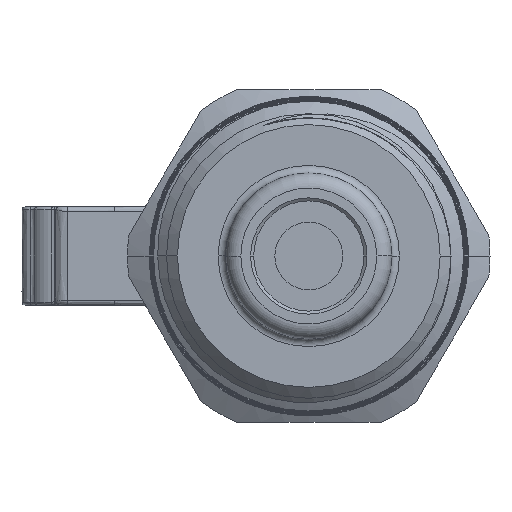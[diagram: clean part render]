
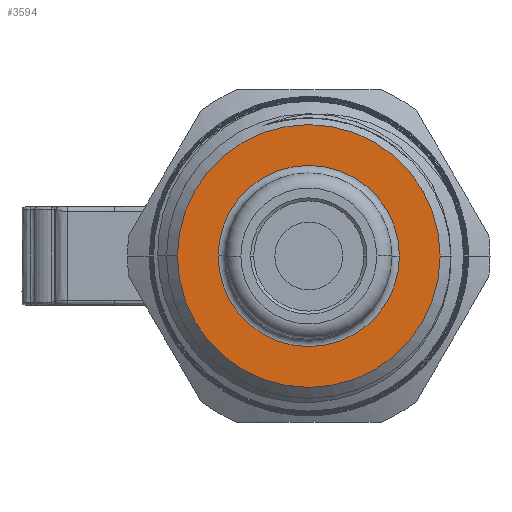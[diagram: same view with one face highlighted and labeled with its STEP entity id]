
A CAD part, front view. The second image highlights one B-rep face of the part: STEP entity #3594.
In plain terms, the highlighted planar face has unit normal (0, -1, 0).
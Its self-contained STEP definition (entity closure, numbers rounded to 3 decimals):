
#2=CARTESIAN_POINT('',(0.,0.,0.));
#3=DIRECTION('',(0.,1.,0.));
#4=DIRECTION('',(1.,0.,0.));
#5=AXIS2_PLACEMENT_3D('',#2,#3,#4);
#7=CARTESIAN_POINT('',(0.,0.,0.));
#8=DIRECTION('',(0.,1.,0.));
#9=DIRECTION('',(-1.,0.,0.));
#10=AXIS2_PLACEMENT_3D('',#7,#8,#9);
#12=CARTESIAN_POINT('',(0.,0.,0.));
#13=DIRECTION('',(0.,-1.,0.));
#14=DIRECTION('',(-1.,0.,0.));
#15=AXIS2_PLACEMENT_3D('',#12,#13,#14);
#17=CARTESIAN_POINT('',(0.,0.,0.));
#18=DIRECTION('',(0.,-1.,0.));
#19=DIRECTION('',(1.,0.,0.));
#20=AXIS2_PLACEMENT_3D('',#17,#18,#19);
#3369=CARTESIAN_POINT('',(8.7,0.,0.));
#3370=CARTESIAN_POINT('',(-8.7,0.,0.));
#3371=VERTEX_POINT('',#3369);
#3372=VERTEX_POINT('',#3370);
#3572=CARTESIAN_POINT('',(-6.,0.,0.));
#3573=CARTESIAN_POINT('',(6.,0.,0.));
#3574=VERTEX_POINT('',#3572);
#3575=VERTEX_POINT('',#3573);
#3577=CARTESIAN_POINT('',(0.,0.,0.));
#3578=DIRECTION('',(0.,-1.,0.));
#3579=DIRECTION('',(-1.,0.,0.));
#3580=AXIS2_PLACEMENT_3D('',#3577,#3578,#3579);
#3581=PLANE('',#3580);
#3583=ORIENTED_EDGE('',*,*,#3582,.T.);
#3585=ORIENTED_EDGE('',*,*,#3584,.T.);
#3586=EDGE_LOOP('',(#3583,#3585));
#3587=FACE_OUTER_BOUND('',#3586,.F.);
#3589=ORIENTED_EDGE('',*,*,#3588,.T.);
#3591=ORIENTED_EDGE('',*,*,#3590,.T.);
#3592=EDGE_LOOP('',(#3589,#3591));
#3593=FACE_BOUND('',#3592,.F.);
#3594=ADVANCED_FACE('',(#3587,#3593),#3581,.T.);
#6=CIRCLE('',#5,8.7);
#11=CIRCLE('',#10,8.7);
#16=CIRCLE('',#15,6.);
#21=CIRCLE('',#20,6.);
#3582=EDGE_CURVE('',#3371,#3372,#6,.T.);
#3584=EDGE_CURVE('',#3372,#3371,#11,.T.);
#3588=EDGE_CURVE('',#3574,#3575,#16,.T.);
#3590=EDGE_CURVE('',#3575,#3574,#21,.T.);
